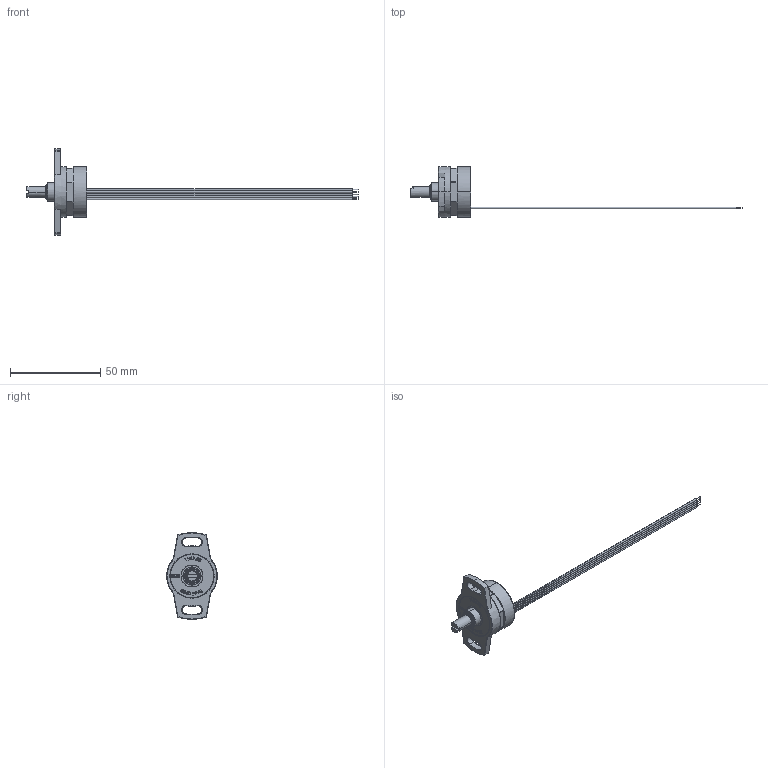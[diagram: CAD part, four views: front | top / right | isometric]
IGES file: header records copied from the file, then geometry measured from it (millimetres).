
Start section: SolidWorks IGES file using analytic representation for surfaces
Global section: file name: O:\30-MegaMotive-neu\09_Projekte & Produkte\04_Sensor Ø28\01_Entwicklung & Projekte\01_Mechanik & Gehäuse\00115_EN(x)28F Gehäuse\01_Aktuell\03_IGES SAT STEP und andere Formate\115.2.7_EN(x)28 F montiert.IGS; native system: SolidWorks 2012; preprocessor: SolidWorks 2012; author: andreb; date: 120830.152140; units: millimetre
Bounding box: 183.5 x 28 x 48 mm (x, y, z)
Surface area: 14333.9 mm2 (no closed solid volume)
Topology: 0 solids, 0 shells, 659 faces, 7630 edges, 7628 vertices
Faces by surface type: bspline 506, revolution 153
